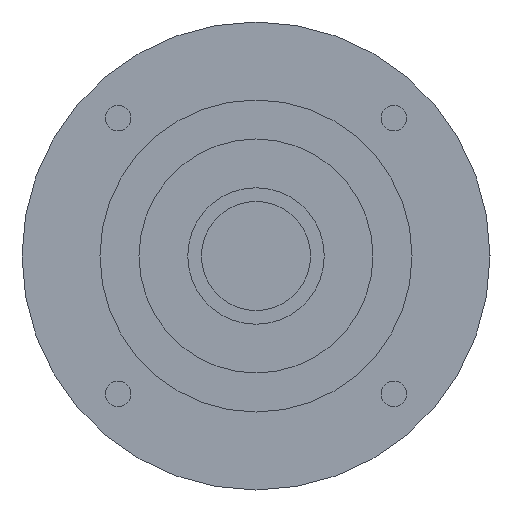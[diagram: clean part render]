
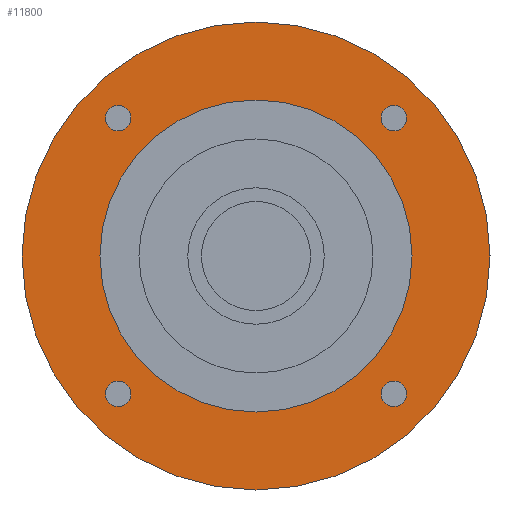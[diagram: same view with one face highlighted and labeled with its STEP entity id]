
A CAD part, left-side view. The second image highlights one B-rep face of the part: STEP entity #11800.
In plain terms, the highlighted planar face has unit normal (-1, 0, 0) as drawn and (0, 0, -1) by its records, which use the part's own axes.
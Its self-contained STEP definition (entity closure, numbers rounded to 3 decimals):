
#10630=CARTESIAN_POINT('',(60.,0.,-66.401));
#10640=VERTEX_POINT('',#10630);
#10670=CARTESIAN_POINT('',(0.,0.,
-66.401));
#10680=DIRECTION('',(0.,0.,-1.));
#10690=DIRECTION('',(0.,-1.,0.));
#10700=AXIS2_PLACEMENT_3D('',#10670,#10680,#10690);
#10710=CIRCLE('',#10700,60.);
#10720=CARTESIAN_POINT('',(0.,-60.,-66.401));
#10730=VERTEX_POINT('',#10720);
#10740=EDGE_CURVE('',#10640,#10730,#10710,.T.);
#10760=CARTESIAN_POINT('',(-60.,0.,-66.401));
#10770=VERTEX_POINT('',#10760);
#10780=EDGE_CURVE('',#10730,#10770,#10710,.T.);
#10900=CARTESIAN_POINT('',(0.,0.,
-66.401));
#10910=DIRECTION('',(0.,0.,-1.));
#10920=DIRECTION('',(1.,0.,0.));
#10930=AXIS2_PLACEMENT_3D('',#10900,#10910,#10920);
#10940=PLANE('',#10930);
#10950=CARTESIAN_POINT('',(35.355,35.355,-66.401));
#10960=DIRECTION('',(0.,0.,-1.));
#10970=DIRECTION('',(0.,1.,0.));
#10980=AXIS2_PLACEMENT_3D('',#10950,#10960,#10970);
#10990=CIRCLE('',#10980,3.25);
#11000=CARTESIAN_POINT('',(35.355,38.605,-66.401));
#11010=VERTEX_POINT('',#11000);
#11020=CARTESIAN_POINT('',(35.355,32.105,-66.401));
#11030=VERTEX_POINT('',#11020);
#11040=EDGE_CURVE('',#11010,#11030,#10990,.T.);
#11050=ORIENTED_EDGE('',*,*,#11040,.F.);
#11060=EDGE_CURVE('',#11030,#11010,#10990,.T.);
#11070=ORIENTED_EDGE('',*,*,#11060,.F.);
#11080=EDGE_LOOP('',(#11070,#11050));
#11090=FACE_BOUND('',#11080,.T.);
#11100=CARTESIAN_POINT('',(-35.355,35.355,-66.401));
#11110=DIRECTION('',(0.,0.,-1.));
#11120=DIRECTION('',(-1.,0.,0.));
#11130=AXIS2_PLACEMENT_3D('',#11100,#11110,#11120);
#11140=CIRCLE('',#11130,3.25);
#11150=CARTESIAN_POINT('',(-38.605,35.355,-66.401));
#11160=VERTEX_POINT('',#11150);
#11170=CARTESIAN_POINT('',(-32.105,35.355,-66.401));
#11180=VERTEX_POINT('',#11170);
#11190=EDGE_CURVE('',#11160,#11180,#11140,.T.);
#11200=ORIENTED_EDGE('',*,*,#11190,.F.);
#11210=EDGE_CURVE('',#11180,#11160,#11140,.T.);
#11220=ORIENTED_EDGE('',*,*,#11210,.F.);
#11230=EDGE_LOOP('',(#11220,#11200));
#11240=FACE_BOUND('',#11230,.T.);
#11250=CARTESIAN_POINT('',(-35.355,-35.355,-66.401))
;
#11260=DIRECTION('',(0.,0.,-1.));
#11270=DIRECTION('',(0.,-1.,0.));
#11280=AXIS2_PLACEMENT_3D('',#11250,#11260,#11270);
#11290=CIRCLE('',#11280,3.25);
#11300=CARTESIAN_POINT('',(-35.355,-38.605,-66.401))
;
#11310=VERTEX_POINT('',#11300);
#11320=CARTESIAN_POINT('',(-35.355,-32.105,-66.401))
;
#11330=VERTEX_POINT('',#11320);
#11340=EDGE_CURVE('',#11310,#11330,#11290,.T.);
#11350=ORIENTED_EDGE('',*,*,#11340,.F.);
#11360=EDGE_CURVE('',#11330,#11310,#11290,.T.);
#11370=ORIENTED_EDGE('',*,*,#11360,.F.);
#11380=EDGE_LOOP('',(#11370,#11350));
#11390=FACE_BOUND('',#11380,.T.);
#11400=CARTESIAN_POINT('',(0.,0.,
-66.401));
#11410=DIRECTION('',(0.,0.,1.));
#11420=DIRECTION('',(0.,1.,0.));
#11430=AXIS2_PLACEMENT_3D('',#11400,#11410,#11420);
#11440=CIRCLE('',#11430,40.);
#11450=CARTESIAN_POINT('',(-40.,0.,-66.401));
#11460=VERTEX_POINT('',#11450);
#11470=CARTESIAN_POINT('',(40.,0.,-66.401));
#11480=VERTEX_POINT('',#11470);
#11490=EDGE_CURVE('',#11460,#11480,#11440,.T.);
#11500=ORIENTED_EDGE('',*,*,#11490,.T.);
#11510=CARTESIAN_POINT('',(0.,40.,-66.401));
#11520=VERTEX_POINT('',#11510);
#11530=EDGE_CURVE('',#11520,#11460,#11440,.T.);
#11540=ORIENTED_EDGE('',*,*,#11530,.T.);
#11550=EDGE_CURVE('',#11480,#11520,#11440,.T.);
#11560=ORIENTED_EDGE('',*,*,#11550,.T.);
#11570=EDGE_LOOP('',(#11560,#11540,#11500));
#11580=FACE_BOUND('',#11570,.T.);
#11590=CARTESIAN_POINT('',(35.355,-35.355,-66.401));
#11600=DIRECTION('',(0.,0.,-1.));
#11610=DIRECTION('',(1.,0.,0.));
#11620=AXIS2_PLACEMENT_3D('',#11590,#11600,#11610);
#11630=CIRCLE('',#11620,3.25);
#11640=CARTESIAN_POINT('',(38.605,-35.355,-66.401));
#11650=VERTEX_POINT('',#11640);
#11660=CARTESIAN_POINT('',(32.105,-35.355,-66.401));
#11670=VERTEX_POINT('',#11660);
#11680=EDGE_CURVE('',#11650,#11670,#11630,.T.);
#11690=ORIENTED_EDGE('',*,*,#11680,.F.);
#11700=EDGE_CURVE('',#11670,#11650,#11630,.T.);
#11710=ORIENTED_EDGE('',*,*,#11700,.F.);
#11720=EDGE_LOOP('',(#11710,#11690));
#11730=FACE_BOUND('',#11720,.T.);
#11740=EDGE_CURVE('',#10770,#10640,#10710,.T.);
#11750=ORIENTED_EDGE('',*,*,#11740,.T.);
#11760=ORIENTED_EDGE('',*,*,#10780,.T.);
#11770=ORIENTED_EDGE('',*,*,#10740,.T.);
#11780=EDGE_LOOP('',(#11770,#11760,#11750));
#11790=FACE_OUTER_BOUND('',#11780,.T.);
#11800=ADVANCED_FACE('',(#11090,#11240,#11390,#11580,#11730,#11790),
#10940,.T.);
